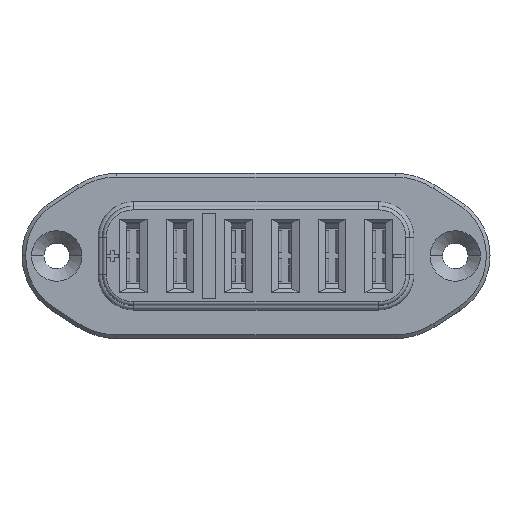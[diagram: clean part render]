
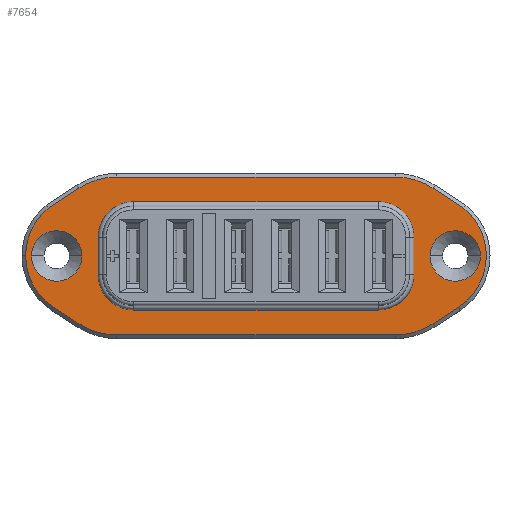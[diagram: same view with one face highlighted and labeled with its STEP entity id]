
A CAD part, top view. The second image highlights one B-rep face of the part: STEP entity #7654.
In plain terms, the highlighted planar face has unit normal (0, 0, 1).
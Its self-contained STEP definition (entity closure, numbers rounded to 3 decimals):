
#818=CARTESIAN_POINT('',(22.3,0.03,55.34));
#819=DIRECTION('',(0.,0.,1.));
#820=DIRECTION('',(0.545,-0.838,0.));
#821=AXIS2_PLACEMENT_3D('',#818,#819,#820);
#823=DIRECTION('',(0.838,0.545,0.));
#824=VECTOR('',#823,4.133);
#825=CARTESIAN_POINT('',(23.413,-9.265,55.34));
#826=LINE('',#825,#824);
#827=CARTESIAN_POINT('',(18.236,-1.3,55.34));
#828=DIRECTION('',(0.,0.,1.));
#829=DIRECTION('',(0.,-1.,0.));
#830=AXIS2_PLACEMENT_3D('',#827,#828,#829);
#832=CARTESIAN_POINT('',(-19.836,-1.3,55.34));
#833=DIRECTION('',(0.,0.,1.));
#834=DIRECTION('',(-0.545,-0.838,0.));
#835=AXIS2_PLACEMENT_3D('',#832,#833,#834);
#837=DIRECTION('',(0.838,-0.545,0.));
#838=VECTOR('',#837,4.133);
#839=CARTESIAN_POINT('',(-28.478,-7.013,55.34));
#840=LINE('',#839,#838);
#841=CARTESIAN_POINT('',(-23.9,0.03,55.34));
#842=DIRECTION('',(0.,0.,1.));
#843=DIRECTION('',(-1.,0.,0.));
#844=AXIS2_PLACEMENT_3D('',#841,#842,#843);
#846=CARTESIAN_POINT('',(-23.9,0.03,55.34));
#847=DIRECTION('',(0.,0.,1.));
#848=DIRECTION('',(-0.633,0.774,0.));
#849=AXIS2_PLACEMENT_3D('',#846,#847,#848);
#851=DIRECTION('',(-0.838,-0.545,0.));
#852=VECTOR('',#851,5.016);
#853=CARTESIAN_POINT('',(-25.013,9.265,55.34));
#854=LINE('',#853,#852);
#855=CARTESIAN_POINT('',(-19.836,1.3,55.34));
#856=DIRECTION('',(0.,0.,1.));
#857=DIRECTION('',(0.,1.,0.));
#858=AXIS2_PLACEMENT_3D('',#855,#856,#857);
#860=CARTESIAN_POINT('',(18.236,1.3,55.34));
#861=DIRECTION('',(0.,0.,1.));
#862=DIRECTION('',(0.545,0.838,0.));
#863=AXIS2_PLACEMENT_3D('',#860,#861,#862);
#865=DIRECTION('',(-0.838,0.545,0.));
#866=VECTOR('',#865,5.016);
#867=CARTESIAN_POINT('',(27.619,6.531,55.34));
#868=LINE('',#867,#866);
#869=CARTESIAN_POINT('',(22.3,0.03,55.34));
#870=DIRECTION('',(0.,0.,1.));
#871=DIRECTION('',(1.,0.,0.));
#872=AXIS2_PLACEMENT_3D('',#869,#870,#871);
#874=CARTESIAN_POINT('',(26.45,0.,55.34));
#875=DIRECTION('',(0.,0.,-1.));
#876=DIRECTION('',(1.,0.,0.));
#877=AXIS2_PLACEMENT_3D('',#874,#875,#876);
#879=CARTESIAN_POINT('',(26.45,0.,55.34));
#880=DIRECTION('',(0.,0.,-1.));
#881=DIRECTION('',(-1.,0.,0.));
#882=AXIS2_PLACEMENT_3D('',#879,#880,#881);
#884=CARTESIAN_POINT('',(-28.05,0.,55.34));
#885=DIRECTION('',(0.,0.,-1.));
#886=DIRECTION('',(1.,0.,0.));
#887=AXIS2_PLACEMENT_3D('',#884,#885,#886);
#889=CARTESIAN_POINT('',(-28.05,0.,55.34));
#890=DIRECTION('',(0.,0.,-1.));
#891=DIRECTION('',(-1.,0.,0.));
#892=AXIS2_PLACEMENT_3D('',#889,#890,#891);
#894=CARTESIAN_POINT('',(-17.55,2.55,55.34));
#895=DIRECTION('',(0.,0.,-1.));
#896=DIRECTION('',(-1.,0.,0.));
#897=AXIS2_PLACEMENT_3D('',#894,#895,#896);
#899=CARTESIAN_POINT('',(-17.55,-2.55,55.34));
#900=DIRECTION('',(0.,0.,-1.));
#901=DIRECTION('',(0.,-1.,0.));
#902=AXIS2_PLACEMENT_3D('',#899,#900,#901);
#904=CARTESIAN_POINT('',(15.95,-2.55,55.34));
#905=DIRECTION('',(0.,0.,-1.));
#906=DIRECTION('',(1.,0.,0.));
#907=AXIS2_PLACEMENT_3D('',#904,#905,#906);
#909=CARTESIAN_POINT('',(15.95,2.55,55.34));
#910=DIRECTION('',(0.,0.,-1.));
#911=DIRECTION('',(0.,1.,0.));
#912=AXIS2_PLACEMENT_3D('',#909,#910,#911);
#923=CARTESIAN_POINT('',(27.619,6.531,55.34));
#952=DIRECTION('',(-1.,0.,0.));
#953=VECTOR('',#952,38.071);
#954=CARTESIAN_POINT('',(18.236,-10.8,55.34));
#955=LINE('',#954,#953);
#1066=DIRECTION('',(1.,0.,0.));
#1067=VECTOR('',#1066,38.071);
#1068=CARTESIAN_POINT('',(-19.836,10.8,55.34));
#1069=LINE('',#1068,#1067);
#1147=DIRECTION('',(-1.,0.,0.));
#1148=VECTOR('',#1147,33.5);
#1149=CARTESIAN_POINT('',(15.95,6.8,55.34));
#1150=LINE('',#1149,#1148);
#1167=DIRECTION('',(0.,1.,0.));
#1168=VECTOR('',#1167,5.1);
#1169=CARTESIAN_POINT('',(20.2,-2.55,55.34));
#1170=LINE('',#1169,#1168);
#1183=DIRECTION('',(1.,0.,0.));
#1184=VECTOR('',#1183,33.5);
#1185=CARTESIAN_POINT('',(-17.55,-6.8,55.34));
#1186=LINE('',#1185,#1184);
#1255=DIRECTION('',(0.,-1.,0.));
#1256=VECTOR('',#1255,5.1);
#1257=CARTESIAN_POINT('',(-21.8,2.55,55.34));
#1258=LINE('',#1257,#1256);
#5023=CARTESIAN_POINT('',(29.9,0.,55.34));
#5025=VERTEX_POINT('',#5023);
#5039=CARTESIAN_POINT('',(-32.3,0.03,55.34));
#5040=CARTESIAN_POINT('',(-28.478,-7.013,
55.34));
#5041=VERTEX_POINT('',#5039);
#5042=VERTEX_POINT('',#5040);
#5087=CARTESIAN_POINT('',(18.236,-10.8,55.34));
#5088=CARTESIAN_POINT('',(23.413,-9.265,55.34));
#5089=VERTEX_POINT('',#5087);
#5090=VERTEX_POINT('',#5088);
#5211=CARTESIAN_POINT('',(-19.836,10.8,55.34));
#5212=CARTESIAN_POINT('',(18.236,10.8,55.34));
#5213=VERTEX_POINT('',#5211);
#5214=VERTEX_POINT('',#5212);
#5215=CARTESIAN_POINT('',(23.,0.,55.34));
#5216=VERTEX_POINT('',#5215);
#5222=CARTESIAN_POINT('',(15.95,-6.8,55.34));
#5224=VERTEX_POINT('',#5222);
#5240=VERTEX_POINT('',#923);
#5275=CARTESIAN_POINT('',(-25.013,-9.265,
55.34));
#5276=CARTESIAN_POINT('',(-19.836,-10.8,55.34));
#5277=VERTEX_POINT('',#5275);
#5278=VERTEX_POINT('',#5276);
#5376=CARTESIAN_POINT('',(20.2,2.55,55.34));
#5378=VERTEX_POINT('',#5376);
#5427=CARTESIAN_POINT('',(26.878,-7.013,55.34));
#5428=VERTEX_POINT('',#5427);
#5432=CARTESIAN_POINT('',(-25.013,9.265,55.34));
#5434=VERTEX_POINT('',#5432);
#5473=CARTESIAN_POINT('',(-21.8,2.55,55.34));
#5474=VERTEX_POINT('',#5473);
#5497=CARTESIAN_POINT('',(-24.6,0.,55.34));
#5498=VERTEX_POINT('',#5497);
#5507=CARTESIAN_POINT('',(20.2,-2.55,55.34));
#5509=VERTEX_POINT('',#5507);
#5579=CARTESIAN_POINT('',(30.7,0.03,55.34));
#5580=VERTEX_POINT('',#5579);
#5623=CARTESIAN_POINT('',(-17.55,-6.8,55.34));
#5624=CARTESIAN_POINT('',(-21.8,-2.55,55.34));
#5625=VERTEX_POINT('',#5623);
#5626=VERTEX_POINT('',#5624);
#5631=CARTESIAN_POINT('',(-31.5,0.,55.34));
#5632=VERTEX_POINT('',#5631);
#5733=CARTESIAN_POINT('',(-29.219,6.531,55.34));
#5734=VERTEX_POINT('',#5733);
#5780=CARTESIAN_POINT('',(-17.55,6.8,55.34));
#5781=VERTEX_POINT('',#5780);
#5858=CARTESIAN_POINT('',(15.95,6.8,55.34));
#5859=VERTEX_POINT('',#5858);
#5984=CARTESIAN_POINT('',(23.413,9.265,55.34));
#5985=VERTEX_POINT('',#5984);
#7590=CARTESIAN_POINT('',(-3.7,0.,
55.34));
#7591=DIRECTION('',(0.,0.,-1.));
#7592=DIRECTION('',(-1.,0.,0.));
#7593=AXIS2_PLACEMENT_3D('',#7590,#7591,#7592);
#7594=PLANE('',#7593);
#7596=ORIENTED_EDGE('',*,*,#7595,.F.);
#7598=ORIENTED_EDGE('',*,*,#7597,.F.);
#7600=ORIENTED_EDGE('',*,*,#7599,.F.);
#7602=ORIENTED_EDGE('',*,*,#7601,.T.);
#7604=ORIENTED_EDGE('',*,*,#7603,.F.);
#7606=ORIENTED_EDGE('',*,*,#7605,.F.);
#7607=ORIENTED_EDGE('',*,*,#7573,.F.);
#7609=ORIENTED_EDGE('',*,*,#7608,.F.);
#7611=ORIENTED_EDGE('',*,*,#7610,.F.);
#7613=ORIENTED_EDGE('',*,*,#7612,.F.);
#7615=ORIENTED_EDGE('',*,*,#7614,.T.);
#7617=ORIENTED_EDGE('',*,*,#7616,.F.);
#7619=ORIENTED_EDGE('',*,*,#7618,.F.);
#7621=ORIENTED_EDGE('',*,*,#7620,.F.);
#7622=EDGE_LOOP('',(#7596,#7598,#7600,#7602,#7604,#7606,#7607,#7609,#7611,#7613,
#7615,#7617,#7619,#7621));
#7623=FACE_OUTER_BOUND('',#7622,.F.);
#7625=ORIENTED_EDGE('',*,*,#7624,.F.);
#7627=ORIENTED_EDGE('',*,*,#7626,.F.);
#7628=EDGE_LOOP('',(#7625,#7627));
#7629=FACE_BOUND('',#7628,.F.);
#7631=ORIENTED_EDGE('',*,*,#7630,.F.);
#7633=ORIENTED_EDGE('',*,*,#7632,.F.);
#7634=EDGE_LOOP('',(#7631,#7633));
#7635=FACE_BOUND('',#7634,.F.);
#7637=ORIENTED_EDGE('',*,*,#7636,.F.);
#7639=ORIENTED_EDGE('',*,*,#7638,.T.);
#7641=ORIENTED_EDGE('',*,*,#7640,.F.);
#7643=ORIENTED_EDGE('',*,*,#7642,.T.);
#7645=ORIENTED_EDGE('',*,*,#7644,.F.);
#7647=ORIENTED_EDGE('',*,*,#7646,.T.);
#7649=ORIENTED_EDGE('',*,*,#7648,.F.);
#7651=ORIENTED_EDGE('',*,*,#7650,.T.);
#7652=EDGE_LOOP('',(#7637,#7639,#7641,#7643,#7645,#7647,#7649,#7651));
#7653=FACE_BOUND('',#7652,.F.);
#822=CIRCLE('',#821,8.4);
#831=CIRCLE('',#830,9.5);
#836=CIRCLE('',#835,9.5);
#845=CIRCLE('',#844,8.4);
#850=CIRCLE('',#849,8.4);
#859=CIRCLE('',#858,9.5);
#864=CIRCLE('',#863,9.5);
#873=CIRCLE('',#872,8.4);
#878=CIRCLE('',#877,3.45);
#883=CIRCLE('',#882,3.45);
#888=CIRCLE('',#887,3.45);
#893=CIRCLE('',#892,3.45);
#898=CIRCLE('',#897,4.25);
#903=CIRCLE('',#902,4.25);
#908=CIRCLE('',#907,4.25);
#913=CIRCLE('',#912,4.25);
#7573=EDGE_CURVE('',#5041,#5042,#845,.T.);
#7595=EDGE_CURVE('',#5428,#5580,#822,.T.);
#7597=EDGE_CURVE('',#5090,#5428,#826,.T.);
#7599=EDGE_CURVE('',#5089,#5090,#831,.T.);
#7601=EDGE_CURVE('',#5089,#5278,#955,.T.);
#7603=EDGE_CURVE('',#5277,#5278,#836,.T.);
#7605=EDGE_CURVE('',#5042,#5277,#840,.T.);
#7608=EDGE_CURVE('',#5734,#5041,#850,.T.);
#7610=EDGE_CURVE('',#5434,#5734,#854,.T.);
#7612=EDGE_CURVE('',#5213,#5434,#859,.T.);
#7614=EDGE_CURVE('',#5213,#5214,#1069,.T.);
#7616=EDGE_CURVE('',#5985,#5214,#864,.T.);
#7618=EDGE_CURVE('',#5240,#5985,#868,.T.);
#7620=EDGE_CURVE('',#5580,#5240,#873,.T.);
#7624=EDGE_CURVE('',#5025,#5216,#878,.T.);
#7626=EDGE_CURVE('',#5216,#5025,#883,.T.);
#7630=EDGE_CURVE('',#5498,#5632,#888,.T.);
#7632=EDGE_CURVE('',#5632,#5498,#893,.T.);
#7636=EDGE_CURVE('',#5474,#5781,#898,.T.);
#7638=EDGE_CURVE('',#5474,#5626,#1258,.T.);
#7640=EDGE_CURVE('',#5625,#5626,#903,.T.);
#7642=EDGE_CURVE('',#5625,#5224,#1186,.T.);
#7644=EDGE_CURVE('',#5509,#5224,#908,.T.);
#7646=EDGE_CURVE('',#5509,#5378,#1170,.T.);
#7648=EDGE_CURVE('',#5859,#5378,#913,.T.);
#7650=EDGE_CURVE('',#5859,#5781,#1150,.T.);
#7654=ADVANCED_FACE('',(#7623,#7629,#7635,#7653),#7594,.F.);
